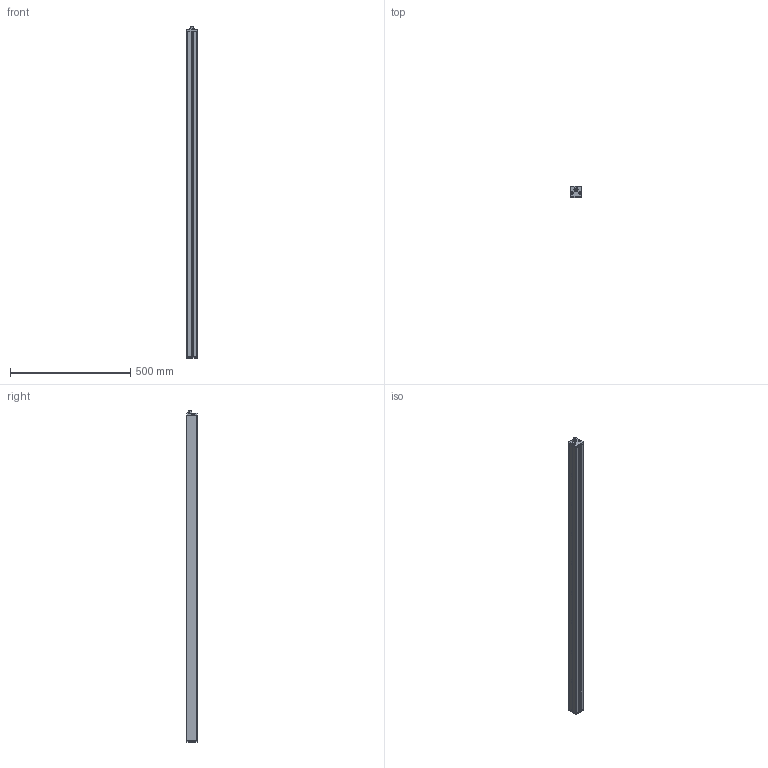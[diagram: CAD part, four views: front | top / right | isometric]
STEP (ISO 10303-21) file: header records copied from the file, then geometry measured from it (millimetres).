
FILE_DESCRIPTION (( 'STEP AP214' ), '1' );
FILE_NAME ('NBAR54.STEP', '2012-01-13T18:14:59', ( 'JRLEDS' ), ( '' ), 'SwSTEP 2.0', 'SolidWorks 2010', '' );
FILE_SCHEMA (( 'AUTOMOTIVE_DESIGN' ));
Length unit declared in the file: millimetre
Products named in the file (8): Embout ALU; PROT-NBAR54; screw_din_912-m5x0_8-10-8_8_Default; Embout percé ALU; SW3DPS-FISCHER_DBP_103_Z053-130-DEFAULT; CIR6LED; NBAR54; PROF-NBAR54
Assembly tree (18 placements, depth 2):
  NBAR54
    CIR6LED  x9
    PROF-NBAR54
    Embout ALU
    screw_din_912-m5x0_8-10-8_8_Default  x4
    SW3DPS-FISCHER_DBP_103_Z053-130-DEFAULT
    Embout percé ALU
    PROT-NBAR54
Bounding box: 45.1 x 45 x 1380 mm (x, y, z)
Volume: 894872.4 mm3; surface area: 855267.2 mm2
Topology: 72 solids, 72 shells, 663 faces, 1454 edges, 934 vertices
Faces by surface type: plane 426, cylinder 199, cone 16, torus 14, sphere 8
Entity records: 9132 total; most frequent: DIRECTION 1312, CARTESIAN_POINT 1282, ORIENTED_EDGE 1180, EDGE_CURVE 590, AXIS2_PLACEMENT_3D 461, LINE 390, VECTOR 390, VERTEX_POINT 379
